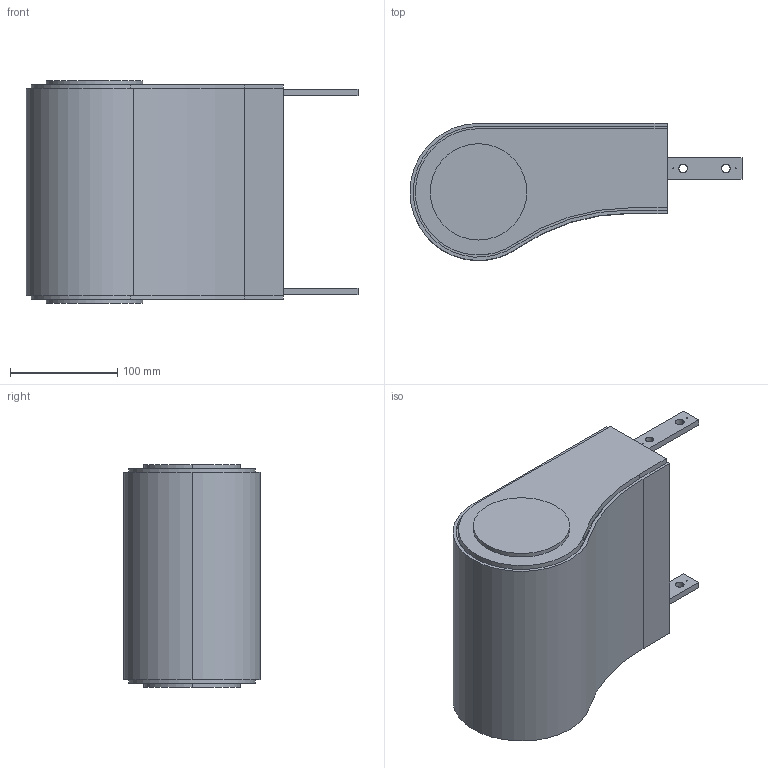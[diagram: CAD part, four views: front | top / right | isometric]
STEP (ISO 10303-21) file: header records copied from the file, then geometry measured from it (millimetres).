
FILE_DESCRIPTION (( 'STEP AP214' ), '1' );
FILE_NAME ('CS SL Aandr. - Omloop.200 Omloop.STEP', '2017-02-08T07:32:51', ( '' ), ( '' ), 'SwSTEP 2.0', 'SolidWorks 2016', '' );
FILE_SCHEMA (( 'AUTOMOTIVE_DESIGN' ));
Length unit declared in the file: millimetre
Products named in the file (1): CS SL Aandr. - Omloop.200 Omloop
Bounding box: 310 x 127.87 x 208 mm (x, y, z)
Volume: 4798171.8 mm3; surface area: 192993.6 mm2
Topology: 1 solids, 1 shells, 60 faces, 162 edges, 108 vertices
Faces by surface type: cylinder 31, plane 29
Entity records: 1974 total; most frequent: DIRECTION 346, CARTESIAN_POINT 331, ORIENTED_EDGE 324, EDGE_CURVE 162, AXIS2_PLACEMENT_3D 123, VERTEX_POINT 108, LINE 100, VECTOR 100
